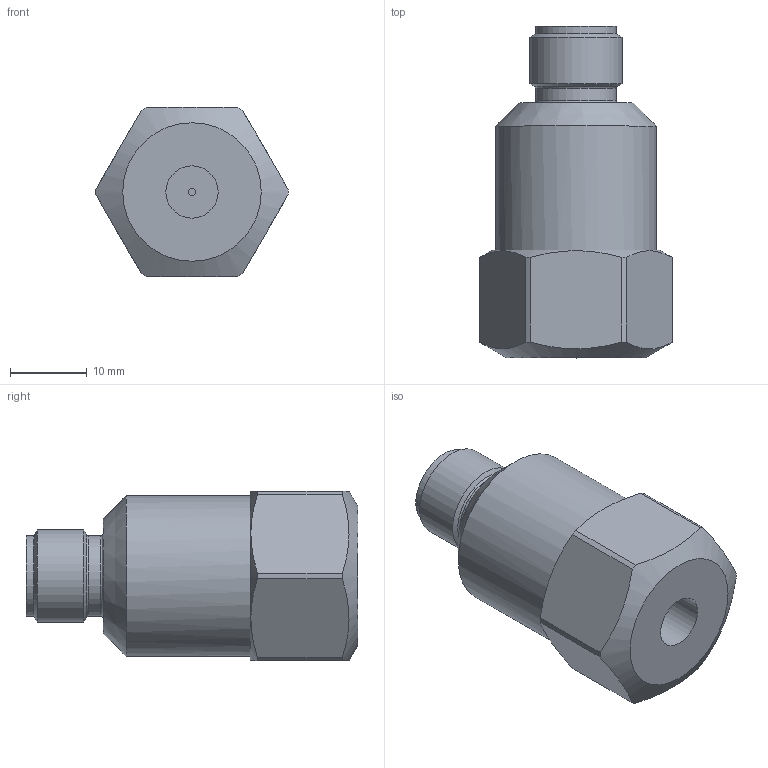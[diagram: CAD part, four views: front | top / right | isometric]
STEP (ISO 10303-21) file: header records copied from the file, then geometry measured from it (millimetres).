
FILE_DESCRIPTION(/* description */ ('Alibre Inc.'),/* implementation_level */ '2;1');
FILE_NAME(/* name */ 'export-EC5A595A-A296-4BAB-83A6-799A6C76763B',/* time_stamp */ '2019-01-29T11:18:05+01:00',/* author */ (''),/* organization */ (''),/* preprocessor_version */ 'ST-DEVELOPER v17',/* originating_system */ 'Alibre',/* authorisation */ '');
FILE_SCHEMA (('CONFIG_CONTROL_DESIGN'));
Length unit declared in the file: millimetre
Products named in the file (1): ID_1
Bounding box: 25 x 43.12 x 22 mm (x, y, z)
Volume: 12271.8 mm3; surface area: 4946.5 mm2
Topology: 1 solids, 4 shells, 213 faces, 546 edges, 356 vertices
Faces by surface type: plane 150, cylinder 35, cone 16, torus 12
Full cylindrical faces by diameter (mm): 1 x1, 1.01 x4, 6.8 x1, 8.4 x1, 9.6 x1, 10.3 x1, 10.5 x2, 12 x1, 20.466 x1, 20.9 x2
Entity records: 6028 total; most frequent: CARTESIAN_POINT 1081, ORIENTED_EDGE 1008, DIRECTION 846, EDGE_CURVE 504, VECTOR 389, LINE 389, VERTEX_POINT 347, AXIS2_PLACEMENT_3D 309
